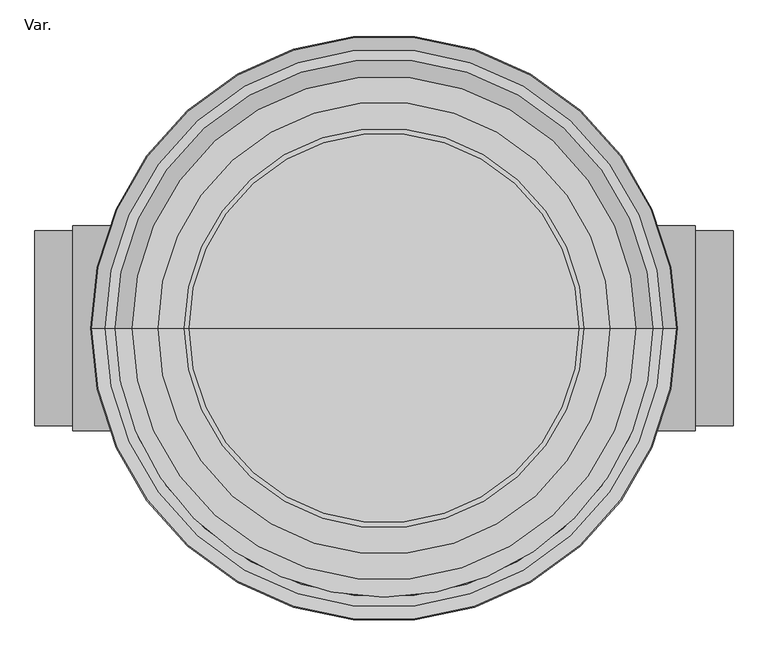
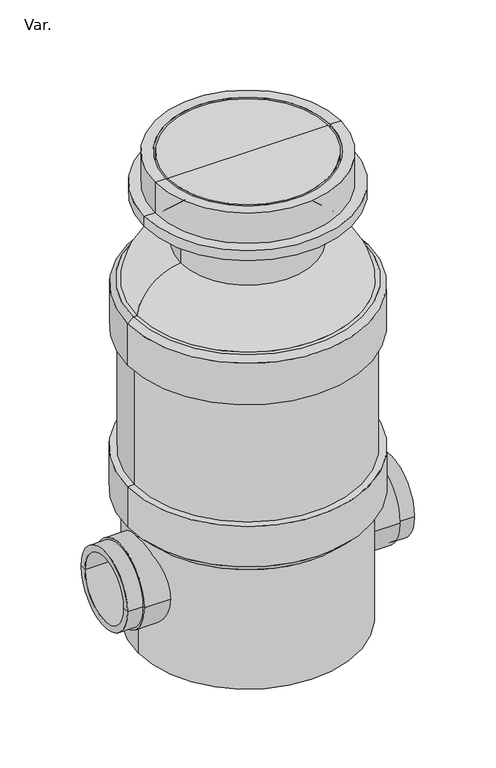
"""IFC4 building model written with IfcOpenShell, lengths in millimetres: pipe fitting geometry, PavcoWavin_UnionesDeTuberia_NovacamDobleTee : Var.."""

from ifc_helpers import new_model, si_unit, point, frame, origin, place, context, project, spatial, polyline, circle_curve, ellipse_curve, trimmed, source, transform, mapped, element, save
from ifc_brep_helpers import plane_surface, cylinder_surface, revolved_surface, advanced_brep


def var_5ff11fb1(model_context):
    return source(origin(), model_context, "Body", "AdvancedBrep", [
        advanced_brep(
        [(672.0, -187.5, 0.0), (672.0, 187.5, 0.0), (672.0, 157.5, 0.0), (672.0, -157.5, 0.0), (598.85, -187.5, 0.0), (598.85, 187.5, 0.0), (598.85, -197.5, 0.0), (598.85, 197.5, 0.0), (463.0, -197.5, 0.0), (463.0, 197.5, 0.0), (463.0, -157.5, 0.0), (463.0, 157.5, 0.0)],
        [
            (0, 1, circle_curve(frame((672.0, 0.0, 0.0), z_axis=(1.0, 0.0, 0.0), x_axis=(0.0, 1.0, 0.0)), 187.5)),
            (1, 2),
            (2, 3, circle_curve(frame((672.0, 0.0, 0.0), z_axis=(-1.0, 0.0, 0.0), x_axis=(0.0, 1.0, 0.0)), 157.5)),
            (3, 0),
            (4, 5, circle_curve(frame((598.85, 0.0, 0.0), z_axis=(1.0, 0.0, 0.0), x_axis=(0.0, 1.0, 0.0)), 187.5)),
            (5, 1),
            (0, 4),
            (6, 7, circle_curve(frame((598.85, 0.0, 0.0), z_axis=(1.0, 0.0, 0.0), x_axis=(0.0, 1.0, 0.0)), 197.5)),
            (7, 5),
            (4, 6),
            (8, 9, circle_curve(frame((463.0, 0.0, 0.0), z_axis=(1.0, 0.0, 0.0), x_axis=(0.0, 1.0, 0.0)), 197.5)),
            (9, 7),
            (6, 8),
            (10, 11, circle_curve(frame((463.0, 0.0, 0.0), z_axis=(1.0, 0.0, 0.0), x_axis=(0.0, 1.0, 0.0)), 157.5)),
            (11, 9),
            (8, 10),
            (11, 10, circle_curve(frame((463.0, 0.0, 0.0), z_axis=(1.0, 0.0, 0.0), x_axis=(0.0, 1.0, 0.0)), 157.5)),
            (8, 9, circle_curve(frame((463.0, 0.0, 0.0), z_axis=(-1.0, 0.0, 0.0), x_axis=(0.0, 1.0, 0.0)), 197.5)),
            (6, 7, circle_curve(frame((598.85, 0.0, 0.0), z_axis=(-1.0, 0.0, 0.0), x_axis=(0.0, 1.0, 0.0)), 197.5)),
            (4, 5, circle_curve(frame((598.85, 0.0, 0.0), z_axis=(-1.0, 0.0, 0.0), x_axis=(0.0, 1.0, 0.0)), 187.5)),
            (0, 1, circle_curve(frame((672.0, 0.0, 0.0), z_axis=(-1.0, 0.0, 0.0), x_axis=(0.0, 1.0, 0.0)), 187.5)),
            (3, 2, circle_curve(frame((672.0, 0.0, 0.0), z_axis=(-1.0, 0.0, 0.0), x_axis=(0.0, 1.0, 0.0)), 157.5)),
            (2, 11),
            (10, 3),
        ],
        [
            plane_surface(frame((672.0, 0.0, 0.0), z_axis=(1.0, 0.0, 0.0), x_axis=(0.0, 1.0, 0.0))),
            cylinder_surface(frame((672.0, 0.0, 0.0), z_axis=(-1.0, 0.0, 0.0), x_axis=(0.0, 1.0, 0.0)), 187.5),
            plane_surface(frame((598.85, 0.0, 0.0), z_axis=(1.0, 0.0, 0.0), x_axis=(0.0, 1.0, 0.0))),
            cylinder_surface(frame((672.0, 0.0, 0.0), z_axis=(-1.0, 0.0, 0.0), x_axis=(0.0, 1.0, 0.0)), 197.5),
            plane_surface(frame((463.0, 0.0, 0.0), z_axis=(-1.0, 0.0, 0.0), x_axis=(0.0, 1.0, 0.0))),
            revolved_surface(polyline([(463.0, 157.5, 0.0), (672.0, 157.5, 0.0)]), (672.0, 0.0, 0.0), (-1.0, 0.0, 0.0)),
        ],
        [
            (0, [[1, 2, 3, 4]]),
            (1, [[5, 6, -1, 7]]),
            (2, [[8, 9, -5, 10]]),
            (3, [[11, 12, -8, 13]]),
            (4, [[14, 15, -11, 16]]),
            (4, [[17, -16, 18, -15]]),
            (3, [[-18, -13, 19, -12]]),
            (2, [[-19, -10, 20, -9]]),
            (1, [[-20, -7, 21, -6]]),
            (0, [[-21, -4, 22, -2]]),
            (5, [[-3, 23, -14, 24]]),
            (5, [[-22, -24, -17, -23]]),
        ],
    ),
        advanced_brep(
        [(-672.0, -157.5, 0.0), (-672.0, 157.5, 0.0), (-672.0, 187.5, 0.0), (-672.0, -187.5, 0.0), (-598.85, 187.5, 0.0), (-598.85, -187.5, 0.0), (-598.85, 197.5, 0.0), (-598.85, -197.5, 0.0), (-463.0, 197.5, 0.0), (-463.0, -197.5, 0.0), (-463.0, 157.5, 0.0), (-463.0, -157.5, 0.0)],
        [
            (0, 1, circle_curve(frame((-672.0, 0.0, 0.0), z_axis=(1.0, 0.0, 0.0), x_axis=(0.0, 1.0, 0.0)), 157.5)),
            (1, 2),
            (2, 3, circle_curve(frame((-672.0, 0.0, 0.0), z_axis=(-1.0, 0.0, 0.0), x_axis=(0.0, 1.0, 0.0)), 187.5)),
            (3, 0),
            (2, 4),
            (4, 5, circle_curve(frame((-598.85, 0.0, 0.0), z_axis=(-1.0, 0.0, 0.0), x_axis=(0.0, 1.0, 0.0)), 187.5)),
            (5, 3),
            (4, 6),
            (6, 7, circle_curve(frame((-598.85, 0.0, 0.0), z_axis=(-1.0, 0.0, 0.0), x_axis=(0.0, 1.0, 0.0)), 197.5)),
            (7, 5),
            (6, 8),
            (8, 9, circle_curve(frame((-463.0, 0.0, 0.0), z_axis=(-1.0, 0.0, 0.0), x_axis=(0.0, 1.0, 0.0)), 197.5)),
            (9, 7),
            (8, 10),
            (10, 11, circle_curve(frame((-463.0, 0.0, 0.0), z_axis=(-1.0, 0.0, 0.0), x_axis=(0.0, 1.0, 0.0)), 157.5)),
            (11, 9),
            (8, 9, circle_curve(frame((-463.0, 0.0, 0.0), z_axis=(1.0, 0.0, 0.0), x_axis=(0.0, 1.0, 0.0)), 197.5)),
            (11, 10, circle_curve(frame((-463.0, 0.0, 0.0), z_axis=(-1.0, 0.0, 0.0), x_axis=(0.0, 1.0, 0.0)), 157.5)),
            (6, 7, circle_curve(frame((-598.85, 0.0, 0.0), z_axis=(1.0, 0.0, 0.0), x_axis=(0.0, 1.0, 0.0)), 197.5)),
            (4, 5, circle_curve(frame((-598.85, 0.0, 0.0), z_axis=(1.0, 0.0, 0.0), x_axis=(0.0, 1.0, 0.0)), 187.5)),
            (2, 3, circle_curve(frame((-672.0, 0.0, 0.0), z_axis=(1.0, 0.0, 0.0), x_axis=(0.0, 1.0, 0.0)), 187.5)),
            (1, 0, circle_curve(frame((-672.0, 0.0, 0.0), z_axis=(1.0, 0.0, 0.0), x_axis=(0.0, 1.0, 0.0)), 157.5)),
            (10, 1),
            (0, 11),
        ],
        [
            plane_surface(frame((-672.0, 0.0, 0.0), z_axis=(-1.0, 0.0, 0.0), x_axis=(0.0, 1.0, 0.0))),
            cylinder_surface(frame((-672.0, 0.0, 0.0), z_axis=(-1.0, 0.0, 0.0), x_axis=(0.0, 1.0, 0.0)), 187.5),
            plane_surface(frame((-598.85, 0.0, 0.0), z_axis=(-1.0, 0.0, 0.0), x_axis=(0.0, 1.0, 0.0))),
            cylinder_surface(frame((-672.0, 0.0, 0.0), z_axis=(-1.0, 0.0, 0.0), x_axis=(0.0, 1.0, 0.0)), 197.5),
            plane_surface(frame((-463.0, 0.0, 0.0), z_axis=(1.0, 0.0, 0.0), x_axis=(0.0, 1.0, 0.0))),
            revolved_surface(polyline([(-672.0, 157.5, 0.0), (-463.0, 157.5, 0.0)]), (-672.0, 0.0, 0.0), (-1.0, 0.0, 0.0)),
        ],
        [
            (0, [[1, 2, 3, 4]]),
            (1, [[-3, 5, 6, 7]]),
            (2, [[-6, 8, 9, 10]]),
            (3, [[-9, 11, 12, 13]]),
            (4, [[-12, 14, 15, 16]]),
            (4, [[17, -16, 18, -14]]),
            (3, [[19, -13, -17, -11]]),
            (2, [[20, -10, -19, -8]]),
            (1, [[21, -7, -20, -5]]),
            (0, [[22, -4, -21, -2]]),
            (5, [[-15, 23, -1, 24]]),
            (5, [[-18, -24, -22, -23]]),
        ],
    ),
        advanced_brep(
        [(385.0, 0.0, 1928.5), (-385.0, 0.0, 1928.5), (-385.0, 0.0, 1828.5), (385.0, 0.0, 1828.5), (435.0, 0.0, 1778.5), (-435.0, 0.0, 1778.5), (-435.0, 0.0, 1928.5), (435.0, 0.0, 1928.5), (485.0, 0.0, 1778.5), (-485.0, 0.0, 1778.5), (485.0, 0.0, 1728.5), (-485.0, 0.0, 1728.5), (335.0, 0.0, 1728.5), (-335.0, 0.0, 1728.5), (335.0, 0.0, 1828.5), (-335.0, 0.0, 1828.5)],
        [
            (0, 1, circle_curve(frame((0.0, 0.0, 1928.5), z_axis=(0.0, 0.0, 1.0), x_axis=(-1.0, 0.0, 0.0)), 385.0)),
            (1, 2),
            (2, 3, circle_curve(frame((0.0, 0.0, 1828.5), z_axis=(0.0, 0.0, -1.0), x_axis=(-1.0, 0.0, 0.0)), 385.0)),
            (3, 0),
            (4, 5, circle_curve(frame((0.0, 0.0, 1778.5), z_axis=(0.0, 0.0, 1.0), x_axis=(-1.0, 0.0, 0.0)), 435.0)),
            (5, 6),
            (6, 7, circle_curve(frame((0.0, 0.0, 1928.5), z_axis=(0.0, 0.0, -1.0), x_axis=(-1.0, 0.0, 0.0)), 435.0)),
            (7, 4),
            (8, 9, circle_curve(frame((0.0, 0.0, 1778.5), z_axis=(0.0, 0.0, 1.0), x_axis=(-1.0, 0.0, 0.0)), 485.0)),
            (9, 5),
            (4, 8),
            (10, 11, circle_curve(frame((0.0, 0.0, 1728.5), z_axis=(0.0, 0.0, 1.0), x_axis=(-1.0, 0.0, 0.0)), 485.0)),
            (11, 9),
            (8, 10),
            (12, 13, circle_curve(frame((0.0, 0.0, 1728.5), z_axis=(0.0, 0.0, 1.0), x_axis=(-1.0, 0.0, 0.0)), 335.0)),
            (13, 11),
            (10, 12),
            (14, 15, circle_curve(frame((0.0, 0.0, 1828.5), z_axis=(0.0, 0.0, 1.0), x_axis=(-1.0, 0.0, 0.0)), 335.0)),
            (15, 13),
            (12, 14),
            (2, 15),
            (14, 3),
            (1, 0, circle_curve(frame((0.0, 0.0, 1928.5), z_axis=(0.0, 0.0, 1.0), x_axis=(-1.0, 0.0, 0.0)), 385.0)),
            (3, 2, circle_curve(frame((0.0, 0.0, 1828.5), z_axis=(0.0, 0.0, -1.0), x_axis=(-1.0, 0.0, 0.0)), 385.0)),
            (5, 4, circle_curve(frame((0.0, 0.0, 1778.5), z_axis=(0.0, 0.0, 1.0), x_axis=(-1.0, 0.0, 0.0)), 435.0)),
            (7, 6, circle_curve(frame((0.0, 0.0, 1928.5), z_axis=(0.0, 0.0, -1.0), x_axis=(-1.0, 0.0, 0.0)), 435.0)),
            (9, 8, circle_curve(frame((0.0, 0.0, 1778.5), z_axis=(0.0, 0.0, 1.0), x_axis=(-1.0, 0.0, 0.0)), 485.0)),
            (11, 10, circle_curve(frame((0.0, 0.0, 1728.5), z_axis=(0.0, 0.0, 1.0), x_axis=(-1.0, 0.0, 0.0)), 485.0)),
            (13, 12, circle_curve(frame((0.0, 0.0, 1728.5), z_axis=(0.0, 0.0, 1.0), x_axis=(-1.0, 0.0, 0.0)), 335.0)),
            (15, 14, circle_curve(frame((0.0, 0.0, 1828.5), z_axis=(0.0, 0.0, 1.0), x_axis=(-1.0, 0.0, 0.0)), 335.0)),
            (6, 1),
            (0, 7),
        ],
        [
            revolved_surface(polyline([(-385.0, 0.0, 1828.5), (-385.0, 0.0, 1928.5)]), (0.0, 0.0, 1835.1814894), (0.0, 0.0, -1.0)),
            cylinder_surface(frame((0.0, 0.0, 1835.1814894), z_axis=(0.0, 0.0, -1.0), x_axis=(-1.0, 0.0, 0.0)), 435.0),
            plane_surface(frame((0.0, 0.0, 1778.5), z_axis=(0.0, 0.0, 1.0), x_axis=(-1.0, 0.0, 0.0))),
            cylinder_surface(frame((0.0, 0.0, 1835.1814894), z_axis=(0.0, 0.0, -1.0), x_axis=(-1.0, 0.0, 0.0)), 485.0),
            plane_surface(frame((0.0, 0.0, 1728.5), z_axis=(0.0, 0.0, -1.0), x_axis=(-1.0, 0.0, 0.0))),
            revolved_surface(polyline([(-335.0, 0.0, 1728.5), (-335.0, 0.0, 1828.5)]), (0.0, 0.0, 1835.1814894), (0.0, 0.0, -1.0)),
            plane_surface(frame((0.0, 0.0, 1828.5), z_axis=(0.0, 0.0, 1.0), x_axis=(-1.0, 0.0, 0.0))),
            plane_surface(frame((0.0, 0.0, 1928.5), z_axis=(0.0, 0.0, 1.0), x_axis=(-1.0, 0.0, 0.0))),
        ],
        [
            (0, [[1, 2, 3, 4]]),
            (1, [[5, 6, 7, 8]]),
            (2, [[9, 10, -5, 11]]),
            (3, [[12, 13, -9, 14]]),
            (4, [[15, 16, -12, 17]]),
            (5, [[18, 19, -15, 20]]),
            (6, [[-3, 21, -18, 22]]),
            (0, [[23, -4, 24, -2]]),
            (1, [[25, -8, 26, -6]]),
            (2, [[27, -11, -25, -10]]),
            (3, [[28, -14, -27, -13]]),
            (4, [[29, -17, -28, -16]]),
            (5, [[30, -20, -29, -19]]),
            (6, [[-24, -22, -30, -21]]),
            (7, [[-7, 31, -1, 32]]),
            (7, [[-26, -32, -23, -31]]),
        ],
    ),
        advanced_brep(
        [(265.0, 0.0, 1888.63), (-265.0, 0.0, 1888.63), (-305.0, 0.0, 1848.63), (305.0, 0.0, 1848.63), (-375.0, 0.0, 1848.63), (375.0, 0.0, 1848.63), (-375.0, 0.0, 1928.5), (375.0, 0.0, 1928.5), (0.0, 0.0, 1888.63), (0.0, 0.0, 1928.5)],
        [
            (0, 1, circle_curve(frame((0.0, 0.0, 1888.63), z_axis=(0.0, 0.0, 1.0), x_axis=(-1.0, 0.0, 0.0)), 265.0)),
            (1, 2),
            (2, 3, circle_curve(frame((0.0, 0.0, 1848.63), z_axis=(0.0, 0.0, -1.0), x_axis=(-1.0, 0.0, 0.0)), 305.0)),
            (3, 0),
            (2, 4),
            (4, 5, circle_curve(frame((0.0, 0.0, 1848.63), z_axis=(0.0, 0.0, -1.0), x_axis=(-1.0, 0.0, 0.0)), 375.0)),
            (5, 3),
            (4, 6),
            (6, 7, circle_curve(frame((0.0, 0.0, 1928.5), z_axis=(0.0, 0.0, -1.0), x_axis=(-1.0, 0.0, 0.0)), 375.0)),
            (7, 5),
            (4, 5, circle_curve(frame((0.0, 0.0, 1848.63), z_axis=(0.0, 0.0, 1.0), x_axis=(-1.0, 0.0, 0.0)), 375.0)),
            (7, 6, circle_curve(frame((0.0, 0.0, 1928.5), z_axis=(0.0, 0.0, -1.0), x_axis=(-1.0, 0.0, 0.0)), 375.0)),
            (2, 3, circle_curve(frame((0.0, 0.0, 1848.63), z_axis=(0.0, 0.0, 1.0), x_axis=(-1.0, 0.0, 0.0)), 305.0)),
            (1, 0, circle_curve(frame((0.0, 0.0, 1888.63), z_axis=(0.0, 0.0, 1.0), x_axis=(-1.0, 0.0, 0.0)), 265.0)),
            (8, 1),
            (0, 8),
            (6, 9),
            (9, 7),
        ],
        [
            revolved_surface(polyline([(-305.0, 0.0, 1848.63), (-265.0, 0.0, 1888.63)]), (0.0, 0.0, 1835.1814894), (0.0, 0.0, -1.0)),
            plane_surface(frame((0.0, 0.0, 1848.63), z_axis=(0.0, 0.0, -1.0), x_axis=(-1.0, 0.0, 0.0))),
            cylinder_surface(frame((0.0, 0.0, 1835.1814894), z_axis=(0.0, 0.0, -1.0), x_axis=(-1.0, 0.0, 0.0)), 375.0),
            plane_surface(frame((0.0, 0.0, 1888.63), z_axis=(0.0, 0.0, -1.0), x_axis=(-1.0, 0.0, 0.0))),
            plane_surface(frame((0.0, 0.0, 1928.5), z_axis=(0.0, 0.0, 1.0), x_axis=(-1.0, 0.0, 0.0))),
        ],
        [
            (0, [[1, 2, 3, 4]]),
            (1, [[-3, 5, 6, 7]]),
            (2, [[-6, 8, 9, 10]]),
            (2, [[11, -10, 12, -8]]),
            (1, [[13, -7, -11, -5]]),
            (0, [[14, -4, -13, -2]]),
            (3, [[15, -1, 16]]),
            (3, [[-16, -14, -15]]),
            (4, [[-9, 17, 18]]),
            (4, [[-12, -18, -17]]),
        ],
    ),
        advanced_brep(
        [(532.5, 0.0, 1268.5), (-532.5, 0.0, 1268.5), (-532.5, 0.0, 1068.5), (532.5, 0.0, 1068.5), (562.5, 0.0, 1068.5), (-562.5, 0.0, 1068.5), (-562.5, 0.0, 1273.8847763), (562.5, 0.0, 1273.8847763), (-537.7512627, 0.0, 1298.6335137), (537.7512627, 0.0, 1298.6335137), (302.0, 0.0, 1778.5), (-302.0, 0.0, 1778.5), (-302.0, 0.0, 1475.6513611), (302.0, 0.0, 1475.6513611), (315.0, 0.0, 1778.5), (-315.0, 0.0, 1778.5), (315.0, 0.0, 1488.5), (-315.0, 0.0, 1488.5), (504.7565196, 0.0, 1268.5), (-504.7565196, 0.0, 1268.5), (504.7565196, 0.0, 1299.0031787), (-504.7565196, 0.0, 1299.0031787), (314.6308936, 0.0, 1475.6513611), (-314.6308936, 0.0, 1475.6513611), (517.7512627, 0.0, 1298.6335137), (-517.7512627, 0.0, 1298.6335137)],
        [
            (0, 1, circle_curve(frame((0.0, 0.0, 1268.5), z_axis=(0.0, 0.0, 1.0), x_axis=(-1.0, 0.0, 0.0)), 532.5)),
            (1, 2),
            (2, 3, circle_curve(frame((0.0, 0.0, 1068.5), z_axis=(0.0, 0.0, -1.0), x_axis=(-1.0, 0.0, 0.0)), 532.5)),
            (3, 0),
            (1, 0, circle_curve(frame((0.0, 0.0, 1268.5), z_axis=(0.0, 0.0, 1.0), x_axis=(-1.0, 0.0, 0.0)), 532.5)),
            (3, 2, circle_curve(frame((0.0, 0.0, 1068.5), z_axis=(0.0, 0.0, -1.0), x_axis=(-1.0, 0.0, 0.0)), 532.5)),
            (4, 5, circle_curve(frame((0.0, 0.0, 1068.5), z_axis=(0.0, 0.0, 1.0), x_axis=(-1.0, 0.0, 0.0)), 562.5)),
            (5, 6),
            (6, 7, circle_curve(frame((0.0, 0.0, 1273.8847763), z_axis=(0.0, 0.0, -1.0), x_axis=(-1.0, 0.0, 0.0)), 562.5)),
            (7, 4),
            (5, 4, circle_curve(frame((0.0, 0.0, 1068.5), z_axis=(0.0, 0.0, 1.0), x_axis=(-1.0, 0.0, 0.0)), 562.5)),
            (7, 6, circle_curve(frame((0.0, 0.0, 1273.8847763), z_axis=(0.0, 0.0, -1.0), x_axis=(-1.0, 0.0, 0.0)), 562.5)),
            (2, 5),
            (4, 3),
            (6, 8),
            (8, 9, circle_curve(frame((0.0, 0.0, 1298.6335137), z_axis=(0.0, 0.0, -1.0), x_axis=(-1.0, 0.0, 0.0)), 537.7512627)),
            (9, 7),
            (9, 8, circle_curve(frame((0.0, 0.0, 1298.6335137), z_axis=(0.0, 0.0, -1.0), x_axis=(-1.0, 0.0, 0.0)), 537.7512627)),
            (10, 11, circle_curve(frame((0.0, 0.0, 1778.5), z_axis=(0.0, 0.0, 1.0), x_axis=(-1.0, 0.0, 0.0)), 302.0)),
            (11, 12),
            (12, 13, circle_curve(frame((0.0, 0.0, 1475.6513611), z_axis=(0.0, 0.0, -1.0), x_axis=(-1.0, 0.0, 0.0)), 302.0)),
            (13, 10),
            (11, 10, circle_curve(frame((0.0, 0.0, 1778.5), z_axis=(0.0, 0.0, 1.0), x_axis=(-1.0, 0.0, 0.0)), 302.0)),
            (13, 12, circle_curve(frame((0.0, 0.0, 1475.6513611), z_axis=(0.0, 0.0, -1.0), x_axis=(-1.0, 0.0, 0.0)), 302.0)),
            (14, 15, circle_curve(frame((0.0, 0.0, 1778.5), z_axis=(0.0, 0.0, 1.0), x_axis=(-1.0, 0.0, 0.0)), 315.0)),
            (15, 11),
            (10, 14),
            (15, 14, circle_curve(frame((0.0, 0.0, 1778.5), z_axis=(0.0, 0.0, 1.0), x_axis=(-1.0, 0.0, 0.0)), 315.0)),
            (16, 17, circle_curve(frame((0.0, 0.0, 1488.5), z_axis=(0.0, 0.0, 1.0), x_axis=(-1.0, 0.0, 0.0)), 315.0)),
            (17, 15),
            (14, 16),
            (17, 16, circle_curve(frame((0.0, 0.0, 1488.5), z_axis=(0.0, 0.0, 1.0), x_axis=(-1.0, 0.0, 0.0)), 315.0)),
            (18, 19, circle_curve(frame((0.0, 0.0, 1268.5), z_axis=(0.0, 0.0, 1.0), x_axis=(-1.0, 0.0, 0.0)), 504.7565196)),
            (19, 1),
            (0, 18),
            (19, 18, circle_curve(frame((0.0, 0.0, 1268.5), z_axis=(0.0, 0.0, 1.0), x_axis=(-1.0, 0.0, 0.0)), 504.7565196)),
            (20, 21, circle_curve(frame((0.0, 0.0, 1299.0031787), z_axis=(0.0, 0.0, 1.0), x_axis=(-1.0, 0.0, 0.0)), 504.7565196)),
            (21, 19),
            (18, 20),
            (21, 20, circle_curve(frame((0.0, 0.0, 1299.0031787), z_axis=(0.0, 0.0, 1.0), x_axis=(-1.0, 0.0, 0.0)), 504.7565196)),
            (22, 23, circle_curve(frame((0.0, 0.0, 1475.6513611), z_axis=(0.0, 0.0, 1.0), x_axis=(-1.0, 0.0, 0.0)), 314.6308936)),
            (23, 21, circle_curve(frame((-303.4589219, 0.0, 1272.9872598), z_axis=(0.0, -1.0, 0.0), x_axis=(1.0, 0.0, 0.0)), 202.9717982)),
            (20, 22, circle_curve(frame((303.4589219, 0.0, 1272.9872598), z_axis=(0.0, -1.0, 0.0), x_axis=(-1.0, 0.0, 0.0)), 202.9717982)),
            (23, 22, circle_curve(frame((0.0, 0.0, 1475.6513611), z_axis=(0.0, 0.0, 1.0), x_axis=(-1.0, 0.0, 0.0)), 314.6308936)),
            (12, 23),
            (22, 13),
            (24, 25, circle_curve(frame((0.0, 0.0, 1298.6335137), z_axis=(0.0, 0.0, 1.0), x_axis=(-1.0, 0.0, 0.0)), 517.7512627)),
            (25, 17, circle_curve(frame((-303.4589219, 0.0, 1272.9872598), z_axis=(0.0, 1.0, 0.0), x_axis=(1.0, 0.0, 0.0)), 215.8215412)),
            (16, 24, circle_curve(frame((303.4589219, 0.0, 1272.9872598), z_axis=(0.0, 1.0, 0.0), x_axis=(-1.0, 0.0, 0.0)), 215.8215412)),
            (25, 24, circle_curve(frame((0.0, 0.0, 1298.6335137), z_axis=(0.0, 0.0, 1.0), x_axis=(-1.0, 0.0, 0.0)), 517.7512627)),
            (8, 25),
            (24, 9),
        ],
        [
            revolved_surface(polyline([(-532.5, 0.0, 1068.5), (-532.5, 0.0, 1268.5)]), (0.0, 0.0, 2327.4814588), (0.0, 0.0, -1.0)),
            cylinder_surface(frame((0.0, 0.0, 2327.4814588), z_axis=(0.0, 0.0, -1.0), x_axis=(-1.0, 0.0, 0.0)), 562.5),
            plane_surface(frame((0.0, 0.0, 1068.5), z_axis=(0.0, 0.0, -1.0), x_axis=(-1.0, 0.0, 0.0))),
            revolved_surface(polyline([(-537.7512627, 0.0, 1298.6335137), (-562.5, 0.0, 1273.8847763)]), (0.0, 0.0, 2327.4814588), (0.0, 0.0, -1.0)),
            revolved_surface(polyline([(-302.0, 0.0, 1475.6513611), (-302.0, 0.0, 1778.5)]), (0.0, 0.0, 2327.4814588), (0.0, 0.0, -1.0)),
            plane_surface(frame((0.0, 0.0, 1778.5), z_axis=(0.0, 0.0, 1.0), x_axis=(-1.0, 0.0, 0.0))),
            cylinder_surface(frame((0.0, 0.0, 2327.4814588), z_axis=(0.0, 0.0, -1.0), x_axis=(-1.0, 0.0, 0.0)), 315.0),
            plane_surface(frame((0.0, 0.0, 1268.5), z_axis=(0.0, 0.0, -1.0), x_axis=(-1.0, 0.0, 0.0))),
            revolved_surface(polyline([(-504.7565196, 0.0, 1268.5), (-504.7565196, 0.0, 1299.0031787)]), (0.0, 0.0, 2327.4814588), (0.0, 0.0, -1.0)),
            revolved_surface(trimmed(ellipse_curve(frame((-303.4589219, 0.0, 1272.9872598), z_axis=(0.0, 1.0, 0.0), x_axis=(1.0, 0.0, 0.0)), 202.9717982, 202.9717982), [point((-504.7565196, 0.0, 1299.0031787))], [point((-314.6308936, 0.0, 1475.6513611))], True, "CARTESIAN"), (0.0, 0.0, 2327.4814588), (0.0, 0.0, -1.0)),
            plane_surface(frame((0.0, 0.0, 1475.6513611), z_axis=(0.0, 0.0, -1.0), x_axis=(-1.0, 0.0, 0.0))),
            revolved_surface(trimmed(ellipse_curve(frame((-303.4589219, 0.0, 1272.9872598), z_axis=(0.0, -1.0, 0.0), x_axis=(1.0, 0.0, 0.0)), 215.8215412, 215.8215412), [point((-315.0, 0.0, 1488.5))], [point((-517.7512627, 0.0, 1298.6335137))], True, "CARTESIAN"), (0.0, 0.0, 2327.4814588), (0.0, 0.0, -1.0)),
            plane_surface(frame((0.0, 0.0, 1298.6335137), z_axis=(0.0, 0.0, 1.0), x_axis=(-1.0, 0.0, 0.0))),
        ],
        [
            (0, [[1, 2, 3, 4]]),
            (0, [[5, -4, 6, -2]]),
            (1, [[7, 8, 9, 10]]),
            (1, [[11, -10, 12, -8]]),
            (2, [[-3, 13, -7, 14]]),
            (2, [[-6, -14, -11, -13]]),
            (3, [[-9, 15, 16, 17]]),
            (3, [[-12, -17, 18, -15]]),
            (4, [[19, 20, 21, 22]]),
            (4, [[23, -22, 24, -20]]),
            (5, [[25, 26, -19, 27]]),
            (5, [[28, -27, -23, -26]]),
            (6, [[29, 30, -25, 31]]),
            (6, [[32, -31, -28, -30]]),
            (7, [[33, 34, -1, 35]]),
            (7, [[36, -35, -5, -34]]),
            (8, [[37, 38, -33, 39]]),
            (8, [[40, -39, -36, -38]]),
            (9, [[41, 42, -37, 43]]),
            (9, [[44, -43, -40, -42]]),
            (10, [[-21, 45, -41, 46]]),
            (10, [[-24, -46, -44, -45]]),
            (11, [[47, 48, -29, 49]]),
            (11, [[50, -49, -32, -48]]),
            (12, [[-16, 51, -47, 52]]),
            (12, [[-18, -52, -50, -51]]),
        ],
    ),
        advanced_brep(
        [(532.5, 0.0, 268.5), (-532.5, 0.0, 268.5), (-532.5, 0.0, 1268.5), (532.5, 0.0, 1268.5), (488.8, 0.0, 268.5), (-488.8, 0.0, 268.5), (488.8, 0.0, 1268.5), (-488.8, 0.0, 1268.5)],
        [
            (0, 1, circle_curve(frame((0.0, 0.0, 268.5), z_axis=(0.0, 0.0, 1.0), x_axis=(-1.0, 0.0, 0.0)), 532.5)),
            (1, 2),
            (2, 3, circle_curve(frame((0.0, 0.0, 1268.5), z_axis=(0.0, 0.0, -1.0), x_axis=(-1.0, 0.0, 0.0)), 532.5)),
            (3, 0),
            (1, 0, circle_curve(frame((0.0, 0.0, 268.5), z_axis=(0.0, 0.0, 1.0), x_axis=(-1.0, 0.0, 0.0)), 532.5)),
            (3, 2, circle_curve(frame((0.0, 0.0, 1268.5), z_axis=(0.0, 0.0, -1.0), x_axis=(-1.0, 0.0, 0.0)), 532.5)),
            (4, 5, circle_curve(frame((0.0, 0.0, 268.5), z_axis=(0.0, 0.0, 1.0), x_axis=(-1.0, 0.0, 0.0)), 488.8)),
            (5, 1),
            (0, 4),
            (5, 4, circle_curve(frame((0.0, 0.0, 268.5), z_axis=(0.0, 0.0, 1.0), x_axis=(-1.0, 0.0, 0.0)), 488.8)),
            (6, 7, circle_curve(frame((0.0, 0.0, 1268.5), z_axis=(0.0, 0.0, 1.0), x_axis=(-1.0, 0.0, 0.0)), 488.8)),
            (7, 5),
            (4, 6),
            (7, 6, circle_curve(frame((0.0, 0.0, 1268.5), z_axis=(0.0, 0.0, 1.0), x_axis=(-1.0, 0.0, 0.0)), 488.8)),
            (2, 7),
            (6, 3),
        ],
        [
            cylinder_surface(frame((0.0, 0.0, 2290.3114894), z_axis=(0.0, 0.0, -1.0), x_axis=(-1.0, 0.0, 0.0)), 532.5),
            plane_surface(frame((0.0, 0.0, 268.5), z_axis=(0.0, 0.0, -1.0), x_axis=(-1.0, 0.0, 0.0))),
            revolved_surface(polyline([(-488.8, 0.0, 268.5), (-488.8, 0.0, 1268.5)]), (0.0, 0.0, 2290.3114894), (0.0, 0.0, -1.0)),
            plane_surface(frame((0.0, 0.0, 1268.5), z_axis=(0.0, 0.0, 1.0), x_axis=(-1.0, 0.0, 0.0))),
        ],
        [
            (0, [[1, 2, 3, 4]]),
            (0, [[5, -4, 6, -2]]),
            (1, [[7, 8, -1, 9]]),
            (1, [[10, -9, -5, -8]]),
            (2, [[11, 12, -7, 13]]),
            (2, [[14, -13, -10, -12]]),
            (3, [[-3, 15, -11, 16]]),
            (3, [[-6, -16, -14, -15]]),
        ],
    ),
        advanced_brep(
        [(564.5, 0.0, 468.5), (-564.5, 0.0, 468.5), (-532.5, 0.0, 468.5), (532.5, 0.0, 468.5), (564.5, 0.0, 268.5), (-564.5, 0.0, 268.5), (0.0, 0.0, -371.5), (-515.0, 0.0, -371.5), (515.0, 0.0, -371.5), (532.5, 0.0, 268.5), (-532.5, 0.0, 268.5), (0.0, 0.0, 268.5), (-515.0, 0.0, 219.0), (515.0, 0.0, 219.0)],
        [
            (0, 1, circle_curve(frame((0.0, 0.0, 468.5), z_axis=(0.0, 0.0, 1.0), x_axis=(-1.0, 0.0, 0.0)), 564.5)),
            (1, 2),
            (2, 3, circle_curve(frame((0.0, 0.0, 468.5), z_axis=(0.0, 0.0, -1.0), x_axis=(-1.0, 0.0, 0.0)), 532.5)),
            (3, 0),
            (1, 0, circle_curve(frame((0.0, 0.0, 468.5), z_axis=(0.0, 0.0, 1.0), x_axis=(-1.0, 0.0, 0.0)), 564.5)),
            (3, 2, circle_curve(frame((0.0, 0.0, 468.5), z_axis=(0.0, 0.0, -1.0), x_axis=(-1.0, 0.0, 0.0)), 532.5)),
            (4, 5, circle_curve(frame((0.0, 0.0, 268.5), z_axis=(0.0, 0.0, 1.0), x_axis=(-1.0, 0.0, 0.0)), 564.5)),
            (5, 1),
            (0, 4),
            (5, 4, circle_curve(frame((0.0, 0.0, 268.5), z_axis=(0.0, 0.0, 1.0), x_axis=(-1.0, 0.0, 0.0)), 564.5)),
            (6, 7),
            (7, 8, circle_curve(frame((0.0, 0.0, -371.5), z_axis=(0.0, 0.0, -1.0), x_axis=(-1.0, 0.0, 0.0)), 515.0)),
            (8, 6),
            (8, 7, circle_curve(frame((0.0, 0.0, -371.5), z_axis=(0.0, 0.0, -1.0), x_axis=(-1.0, 0.0, 0.0)), 515.0)),
            (9, 10, circle_curve(frame((0.0, 0.0, 268.5), z_axis=(0.0, 0.0, 1.0), x_axis=(-1.0, 0.0, 0.0)), 532.5)),
            (10, 11),
            (11, 9),
            (10, 9, circle_curve(frame((0.0, 0.0, 268.5), z_axis=(0.0, 0.0, 1.0), x_axis=(-1.0, 0.0, 0.0)), 532.5)),
            (7, 12),
            (12, 13, circle_curve(frame((0.0, 0.0, 219.0), z_axis=(0.0, 0.0, -1.0), x_axis=(-1.0, 0.0, 0.0)), 515.0)),
            (13, 8),
            (13, 12, circle_curve(frame((0.0, 0.0, 219.0), z_axis=(0.0, 0.0, -1.0), x_axis=(-1.0, 0.0, 0.0)), 515.0)),
            (12, 5),
            (4, 13),
            (2, 10),
            (9, 3),
        ],
        [
            plane_surface(frame((0.0, 0.0, 468.5), z_axis=(0.0, 0.0, 1.0), x_axis=(-1.0, 0.0, 0.0))),
            cylinder_surface(frame((0.0, 0.0, 387.6779757), z_axis=(0.0, 0.0, -1.0), x_axis=(-1.0, 0.0, 0.0)), 564.5),
            plane_surface(frame((0.0, 0.0, -371.5), z_axis=(0.0, 0.0, -1.0), x_axis=(-1.0, 0.0, 0.0))),
            plane_surface(frame((0.0, 0.0, 268.5), z_axis=(0.0, 0.0, 1.0), x_axis=(-1.0, 0.0, 0.0))),
            cylinder_surface(frame((0.0, 0.0, 387.6779757), z_axis=(0.0, 0.0, -1.0), x_axis=(-1.0, 0.0, 0.0)), 515.0),
            revolved_surface(polyline([(-564.5, 0.0, 268.5), (-515.0, 0.0, 219.0)]), (0.0, 0.0, 387.6779757), (0.0, 0.0, -1.0)),
            revolved_surface(polyline([(-532.5, 0.0, 268.5), (-532.5, 0.0, 468.5)]), (0.0, 0.0, 387.6779757), (0.0, 0.0, -1.0)),
        ],
        [
            (0, [[1, 2, 3, 4]]),
            (0, [[5, -4, 6, -2]]),
            (1, [[7, 8, -1, 9]]),
            (1, [[10, -9, -5, -8]]),
            (2, [[11, 12, 13]]),
            (2, [[-13, 14, -11]]),
            (3, [[15, 16, 17]]),
            (3, [[18, -17, -16]]),
            (4, [[-12, 19, 20, 21]]),
            (4, [[-14, -21, 22, -19]]),
            (5, [[-20, 23, -7, 24]]),
            (5, [[-22, -24, -10, -23]]),
            (6, [[-3, 25, -15, 26]]),
            (6, [[-6, -26, -18, -25]]),
        ],
    ),
    ])


if __name__ == "__main__":
    model = new_model("IFC4")
    model_context = context("Model", 3, world=origin())
    ifc_project = project(units=[si_unit("LENGTHUNIT", "METRE", prefix="MILLI")], contexts=[model_context])
    site = spatial("IfcSite", under=ifc_project)
    building = spatial("IfcBuilding", under=site)
    placement = place(None, origin())
    var_shape = var_5ff11fb1(model_context)
    element("IfcPipeFitting", 1, ObjectType="PavcoWavin_UnionesDeTuberia_NovacamDobleTee : Var.", at=placement, inside=building, context=model_context, shape_type="MappedRepresentation", body=[
        mapped(var_shape, transform((0.0, 0.0, 0.0), x_axis=(1.0, 0.0, 0.0), y_axis=(0.0, 1.0, 0.0), z_axis=(0.0, 0.0, 1.0))),
    ])
    save(model, "model.ifc")
